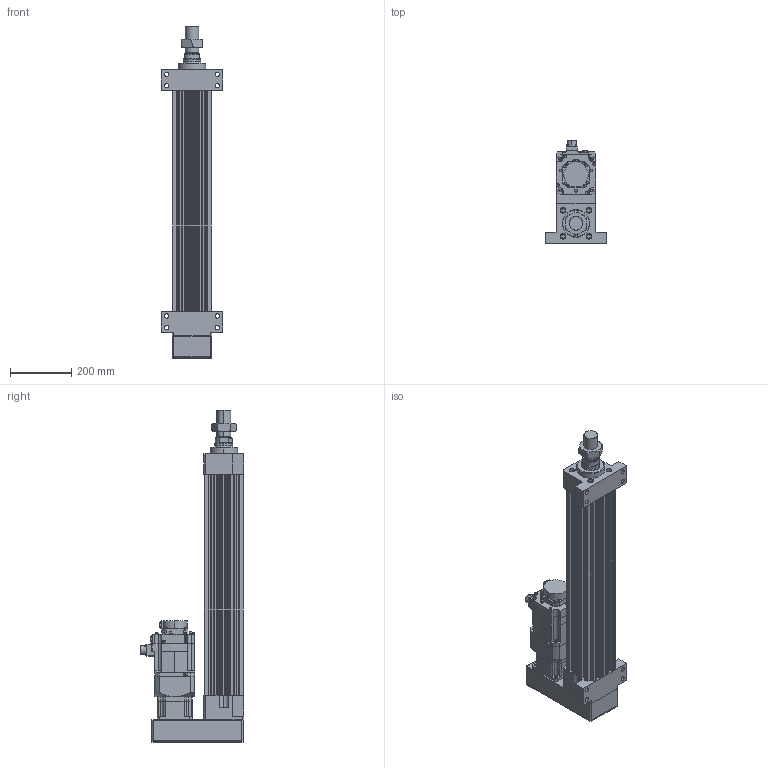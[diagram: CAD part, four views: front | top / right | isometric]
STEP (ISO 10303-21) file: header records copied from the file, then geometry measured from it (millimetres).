
FILE_DESCRIPTION (( 'STEP AP203' ), '1' );
FILE_NAME ('HES130NS(FS)(HS)-P500-W015G00-M-FFB.STEP', '2026-06-10T06:09:14', ( 'tms' ), ( '' ), 'SwSTEP 2.0', 'SolidWorks 2013', '' );
FILE_SCHEMA (( 'CONFIG_CONTROL_DESIGN' ));
Length unit declared in the file: millimetre
Products named in the file (8): HG-SR152B; HES130-P-G120; M45X1.5P; AB1152; AB1151; HES130-FFB-500; HES130NS(FS)(HS)-P500-W015G00-M-FFB; HES130-M-ROD-500
Assembly tree (7 placements, depth 2):
  HES130NS(FS)(HS)-P500-W015G00-M-FFB
    HES130-FFB-500
    HES130-M-ROD-500
    M45X1.5P
    HES130-P-G120
    AB1151
    AB1152
    HG-SR152B
Bounding box: 200 x 337.49 x 1082 mm (x, y, z)
Volume: 12495541.8 mm3; surface area: 1575918 mm2
Topology: 5 solids, 12 shells, 1206 faces, 3060 edges, 1987 vertices
Faces by surface type: cylinder 568, plane 542, cone 82, bspline 10, torus 4
Entity records: 38313 total; most frequent: CARTESIAN_POINT 7368, DIRECTION 6633, ORIENTED_EDGE 6076, EDGE_CURVE 3048, AXIS2_PLACEMENT_3D 2473, VERTEX_POINT 1987, VECTOR 1687, LINE 1687
